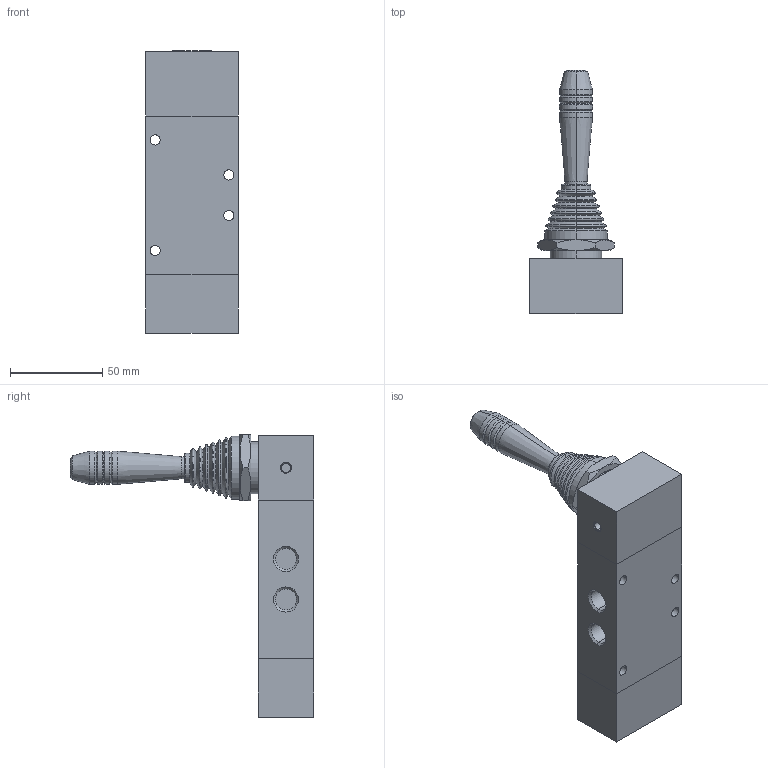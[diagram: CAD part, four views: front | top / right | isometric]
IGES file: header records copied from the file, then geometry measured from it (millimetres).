
Global section: file name: No Iges File Name specified; native system: AutoDesk Inventor R11.0; preprocessor: AutoDesk Inventor Iges Exporter R11.0; author: No Author specified; organization: No Organization specified; date: 20061220.111230; units: millimetre
Bounding box: 50 x 132 x 153.5 mm (x, y, z)
Volume: 257849.4 mm3; surface area: 42158.6 mm2
Topology: 2 solids, 2 shells, 161 faces, 342 edges, 200 vertices
Faces by surface type: cone 48, plane 31, bspline 30, cylinder 20, revolution 18, torus 14
